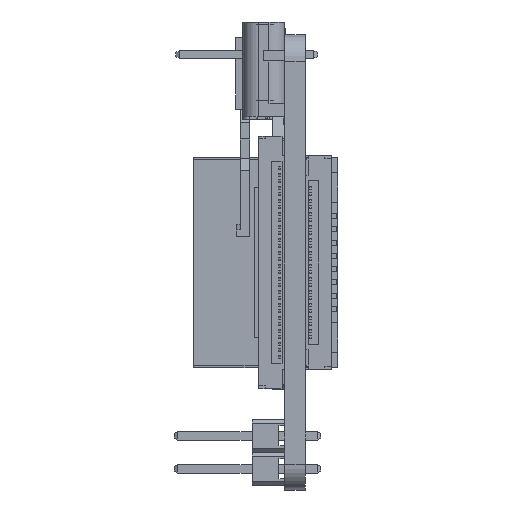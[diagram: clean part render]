
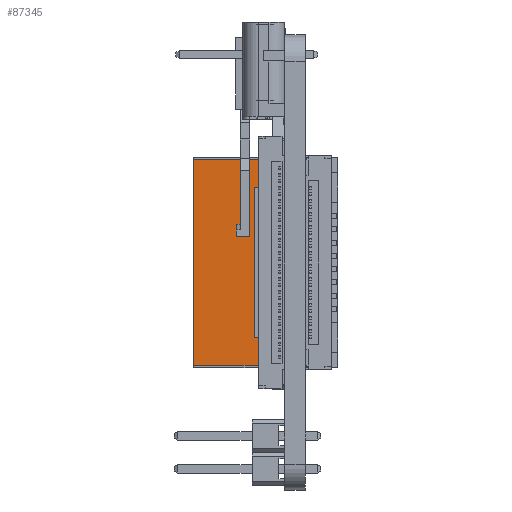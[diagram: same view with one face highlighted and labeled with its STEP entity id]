
A CAD part, left-side view. The second image highlights one B-rep face of the part: STEP entity #87345.
In plain terms, the highlighted planar face has unit normal (-1, 0, 0) as drawn and (0, -1, 0) by its records, which use the part's own axes.
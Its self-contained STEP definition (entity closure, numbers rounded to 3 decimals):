
#719 = CARTESIAN_POINT ( 'NONE',  ( 0., 0., 1.35 ) ) ;
#3610 = CARTESIAN_POINT ( 'NONE',  ( 5.77, 0., -0.88 ) ) ;
#5624 = DIRECTION ( 'NONE',  ( 0., 0., -1. ) ) ;
#6364 = DIRECTION ( 'NONE',  ( 0., 0., 1. ) ) ;
#6611 = ORIENTED_EDGE ( 'NONE', *, *, #34388, .F. ) ;
#6787 = EDGE_CURVE ( 'NONE', #51037, #80410, #135904, .T. ) ;
#8867 = ORIENTED_EDGE ( 'NONE', *, *, #6787, .F. ) ;
#11111 = LINE ( 'NONE', #45908, #72072 ) ;
#11284 = EDGE_CURVE ( 'NONE', #92288, #111774, #47232, .T. ) ;
#12104 = VECTOR ( 'NONE', #5624, 1000. ) ;
#13401 = VERTEX_POINT ( 'NONE', #111823 ) ;
#19925 = CARTESIAN_POINT ( 'NONE',  ( 0., 0., 1.35 ) ) ;
#24227 = VECTOR ( 'NONE', #145088, 1000. ) ;
#24536 = DIRECTION ( 'NONE',  ( 1., 0., 0. ) ) ;
#27705 = ORIENTED_EDGE ( 'NONE', *, *, #116970, .F. ) ;
#30529 = VECTOR ( 'NONE', #67070, 1000. ) ;
#33343 = LINE ( 'NONE', #719, #98537 ) ;
#34388 = EDGE_CURVE ( 'NONE', #13401, #96400, #33343, .T. ) ;
#35479 = CARTESIAN_POINT ( 'NONE',  ( -5.77, 0., 1.35 ) ) ;
#40450 = LINE ( 'NONE', #144538, #12104 ) ;
#45908 = CARTESIAN_POINT ( 'NONE',  ( 5.77, 0., 3.58 ) ) ;
#46418 = EDGE_CURVE ( 'NONE', #96400, #51037, #40450, .T. ) ;
#47232 = LINE ( 'NONE', #93631, #130205 ) ;
#51037 = VERTEX_POINT ( 'NONE', #63898 ) ;
#51245 = EDGE_CURVE ( 'NONE', #80410, #68423, #116182, .T. ) ;
#55610 = VERTEX_POINT ( 'NONE', #35479 ) ;
#56873 = DIRECTION ( 'NONE',  ( 1., 0., 0. ) ) ;
#61761 = CARTESIAN_POINT ( 'NONE',  ( 7.9, 0., 1.35 ) ) ;
#63898 = CARTESIAN_POINT ( 'NONE',  ( 7.9, 0., -5.55 ) ) ;
#64043 = CARTESIAN_POINT ( 'NONE',  ( 0., 0., 0. ) ) ;
#67040 = DIRECTION ( 'NONE',  ( 1., 0., 0. ) ) ;
#67070 = DIRECTION ( 'NONE',  ( 0., 0., -1. ) ) ;
#68423 = VERTEX_POINT ( 'NONE', #149741 ) ;
#71915 = ORIENTED_EDGE ( 'NONE', *, *, #140663, .F. ) ;
#72072 = VECTOR ( 'NONE', #127250, 1000. ) ;
#73004 = VECTOR ( 'NONE', #67040, 1000. ) ;
#76178 = VECTOR ( 'NONE', #138192, 1000. ) ;
#77061 = ORIENTED_EDGE ( 'NONE', *, *, #115707, .F. ) ;
#79859 = LINE ( 'NONE', #19925, #73004 ) ;
#80410 = VERTEX_POINT ( 'NONE', #105569 ) ;
#86798 = PLANE ( 'NONE',  #132568 ) ;
#87345 = ADVANCED_FACE ( 'NONE', ( #109655 ), #86798, .F. ) ;
#89043 = LINE ( 'NONE', #148310, #30529 ) ;
#91859 = ORIENTED_EDGE ( 'NONE', *, *, #51245, .F. ) ;
#92288 = VERTEX_POINT ( 'NONE', #120314 ) ;
#93631 = CARTESIAN_POINT ( 'NONE',  ( 5.77, 0., -0.88 ) ) ;
#96400 = VERTEX_POINT ( 'NONE', #61761 ) ;
#98537 = VECTOR ( 'NONE', #56873, 1000. ) ;
#104835 = CARTESIAN_POINT ( 'NONE',  ( -7.9, 0., 1.35 ) ) ;
#105569 = CARTESIAN_POINT ( 'NONE',  ( -7.9, 0., -5.55 ) ) ;
#109655 = FACE_OUTER_BOUND ( 'NONE', #111078, .T. ) ;
#110377 = DIRECTION ( 'NONE',  ( 0., 1., 0. ) ) ;
#111078 = EDGE_LOOP ( 'NONE', ( #118847, #77061, #71915, #91859, #8867, #113665, #6611, #27705 ) ) ;
#111774 = VERTEX_POINT ( 'NONE', #3610 ) ;
#111823 = CARTESIAN_POINT ( 'NONE',  ( 5.77, 0., 1.35 ) ) ;
#113665 = ORIENTED_EDGE ( 'NONE', *, *, #46418, .F. ) ;
#115707 = EDGE_CURVE ( 'NONE', #55610, #92288, #89043, .T. ) ;
#116182 = LINE ( 'NONE', #104835, #76178 ) ;
#116970 = EDGE_CURVE ( 'NONE', #111774, #13401, #11111, .T. ) ;
#118847 = ORIENTED_EDGE ( 'NONE', *, *, #11284, .F. ) ;
#120314 = CARTESIAN_POINT ( 'NONE',  ( -5.77, 0., -0.88 ) ) ;
#127250 = DIRECTION ( 'NONE',  ( 0., 0., 1. ) ) ;
#130205 = VECTOR ( 'NONE', #24536, 1000. ) ;
#132568 = AXIS2_PLACEMENT_3D ( 'NONE', #64043, #110377, #6364 ) ;
#135904 = LINE ( 'NONE', #145838, #24227 ) ;
#138192 = DIRECTION ( 'NONE',  ( 0., 0., 1. ) ) ;
#140663 = EDGE_CURVE ( 'NONE', #68423, #55610, #79859, .T. ) ;
#144538 = CARTESIAN_POINT ( 'NONE',  ( 7.9, 0., 1.35 ) ) ;
#145088 = DIRECTION ( 'NONE',  ( -1., 0., 0. ) ) ;
#145838 = CARTESIAN_POINT ( 'NONE',  ( -8.1, 0., -5.55 ) ) ;
#148310 = CARTESIAN_POINT ( 'NONE',  ( -5.77, 0., 3.58 ) ) ;
#149741 = CARTESIAN_POINT ( 'NONE',  ( -7.9, 0., 1.35 ) ) ;
